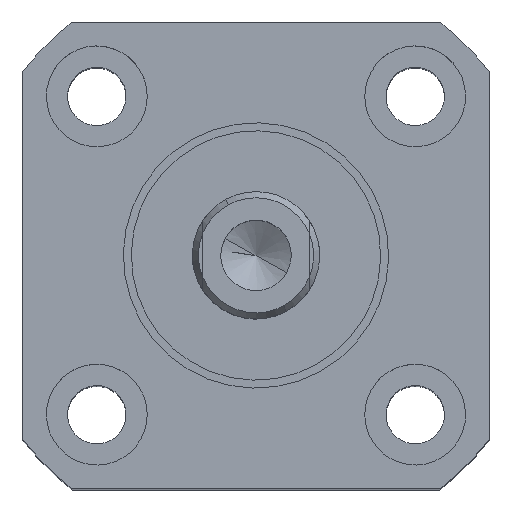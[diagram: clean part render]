
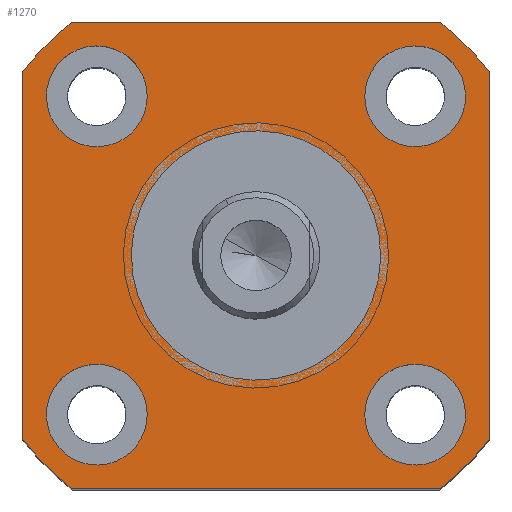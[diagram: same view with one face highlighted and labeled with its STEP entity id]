
A CAD part, top view. The second image highlights one B-rep face of the part: STEP entity #1270.
In plain terms, the highlighted planar face has unit normal (0, 0, 1).
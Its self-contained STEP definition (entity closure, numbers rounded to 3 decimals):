
#240=CARTESIAN_POINT('Vertex',(22.,-17.321,58.)) ;
#243=CARTESIAN_POINT('Axis2P3D Location',(0.,0.,58.)) ;
#247=CARTESIAN_POINT('Vertex',(17.321,-22.,58.)) ;
#324=CARTESIAN_POINT('Line Origine',(0.,-22.,58.)) ;
#328=CARTESIAN_POINT('Vertex',(-17.321,-22.,58.)) ;
#348=CARTESIAN_POINT('Line Origine',(0.,22.,58.)) ;
#352=CARTESIAN_POINT('Vertex',(17.321,22.,58.)) ;
#354=CARTESIAN_POINT('Vertex',(-17.321,22.,58.)) ;
#849=CARTESIAN_POINT('Axis2P3D Location',(15.,15.,58.)) ;
#853=CARTESIAN_POINT('Vertex',(12.723,10.831,58.)) ;
#855=CARTESIAN_POINT('Vertex',(17.277,19.169,58.)) ;
#884=CARTESIAN_POINT('Axis2P3D Location',(15.,15.,58.)) ;
#906=CARTESIAN_POINT('Axis2P3D Location',(15.,-15.,58.)) ;
#910=CARTESIAN_POINT('Vertex',(10.831,-12.723,58.)) ;
#912=CARTESIAN_POINT('Vertex',(19.169,-17.277,58.)) ;
#941=CARTESIAN_POINT('Axis2P3D Location',(15.,-15.,58.)) ;
#963=CARTESIAN_POINT('Axis2P3D Location',(-15.,-15.,58.)) ;
#967=CARTESIAN_POINT('Vertex',(-12.723,-10.831,58.)) ;
#969=CARTESIAN_POINT('Vertex',(-17.277,-19.169,58.)) ;
#998=CARTESIAN_POINT('Axis2P3D Location',(-15.,-15.,58.)) ;
#1024=CARTESIAN_POINT('Vertex',(-5.633,10.312,58.)) ;
#1031=CARTESIAN_POINT('Vertex',(5.633,-10.312,58.)) ;
#1034=CARTESIAN_POINT('Axis2P3D Location',(0.,0.,58.)) ;
#1046=CARTESIAN_POINT('Axis2P3D Location',(0.,0.,58.)) ;
#1063=CARTESIAN_POINT('Axis2P3D Location',(-15.,15.,58.)) ;
#1067=CARTESIAN_POINT('Vertex',(-10.831,12.723,58.)) ;
#1069=CARTESIAN_POINT('Vertex',(-19.169,17.277,58.)) ;
#1098=CARTESIAN_POINT('Axis2P3D Location',(-15.,15.,58.)) ;
#1160=CARTESIAN_POINT('Vertex',(-22.,17.321,58.)) ;
#1163=CARTESIAN_POINT('Axis2P3D Location',(0.,0.,58.)) ;
#1179=CARTESIAN_POINT('Vertex',(-22.,-17.321,58.)) ;
#1182=CARTESIAN_POINT('Axis2P3D Location',(0.,0.,58.)) ;
#1199=CARTESIAN_POINT('Line Origine',(-22.,0.,58.)) ;
#1215=CARTESIAN_POINT('Vertex',(22.,17.321,58.)) ;
#1218=CARTESIAN_POINT('Axis2P3D Location',(0.,0.,58.)) ;
#1230=CARTESIAN_POINT('Axis2P3D Location',(0.,28.,58.)) ;
#1235=CARTESIAN_POINT('Line Origine',(22.,0.,58.)) ;
#244=DIRECTION('Axis2P3D Direction',(0.,0.,1.)) ;
#325=DIRECTION('Vector Direction',(-1.,0.,0.)) ;
#349=DIRECTION('Vector Direction',(1.,0.,0.)) ;
#850=DIRECTION('Axis2P3D Direction',(-0.,0.,-1.)) ;
#885=DIRECTION('Axis2P3D Direction',(-0.,0.,-1.)) ;
#907=DIRECTION('Axis2P3D Direction',(0.,0.,-1.)) ;
#942=DIRECTION('Axis2P3D Direction',(0.,0.,-1.)) ;
#964=DIRECTION('Axis2P3D Direction',(0.,0.,-1.)) ;
#999=DIRECTION('Axis2P3D Direction',(0.,0.,-1.)) ;
#1035=DIRECTION('Axis2P3D Direction',(0.,0.,1.)) ;
#1047=DIRECTION('Axis2P3D Direction',(0.,0.,1.)) ;
#1064=DIRECTION('Axis2P3D Direction',(0.,-0.,-1.)) ;
#1099=DIRECTION('Axis2P3D Direction',(0.,-0.,-1.)) ;
#1164=DIRECTION('Axis2P3D Direction',(0.,0.,1.)) ;
#1183=DIRECTION('Axis2P3D Direction',(0.,0.,1.)) ;
#1200=DIRECTION('Vector Direction',(0.,-1.,0.)) ;
#1219=DIRECTION('Axis2P3D Direction',(0.,0.,1.)) ;
#1231=DIRECTION('Axis2P3D Direction',(0.,0.,1.)) ;
#1232=DIRECTION('Axis2P3D XDirection',(1.,0.,0.)) ;
#1236=DIRECTION('Vector Direction',(0.,1.,0.)) ;
#245=AXIS2_PLACEMENT_3D('Circle Axis2P3D',#243,#244,$) ;
#851=AXIS2_PLACEMENT_3D('Circle Axis2P3D',#849,#850,$) ;
#886=AXIS2_PLACEMENT_3D('Circle Axis2P3D',#884,#885,$) ;
#908=AXIS2_PLACEMENT_3D('Circle Axis2P3D',#906,#907,$) ;
#943=AXIS2_PLACEMENT_3D('Circle Axis2P3D',#941,#942,$) ;
#965=AXIS2_PLACEMENT_3D('Circle Axis2P3D',#963,#964,$) ;
#1000=AXIS2_PLACEMENT_3D('Circle Axis2P3D',#998,#999,$) ;
#1036=AXIS2_PLACEMENT_3D('Circle Axis2P3D',#1034,#1035,$) ;
#1048=AXIS2_PLACEMENT_3D('Circle Axis2P3D',#1046,#1047,$) ;
#1065=AXIS2_PLACEMENT_3D('Circle Axis2P3D',#1063,#1064,$) ;
#1100=AXIS2_PLACEMENT_3D('Circle Axis2P3D',#1098,#1099,$) ;
#1165=AXIS2_PLACEMENT_3D('Circle Axis2P3D',#1163,#1164,$) ;
#1184=AXIS2_PLACEMENT_3D('Circle Axis2P3D',#1182,#1183,$) ;
#1220=AXIS2_PLACEMENT_3D('Circle Axis2P3D',#1218,#1219,$) ;
#1233=AXIS2_PLACEMENT_3D('Plane Axis2P3D',#1230,#1231,#1232) ;
#1241=ORIENTED_EDGE('',*,*,#1239,.T.) ;
#1242=ORIENTED_EDGE('',*,*,#1222,.T.) ;
#1243=ORIENTED_EDGE('',*,*,#356,.T.) ;
#1244=ORIENTED_EDGE('',*,*,#1167,.T.) ;
#1245=ORIENTED_EDGE('',*,*,#1203,.T.) ;
#1246=ORIENTED_EDGE('',*,*,#1186,.T.) ;
#1247=ORIENTED_EDGE('',*,*,#330,.T.) ;
#1248=ORIENTED_EDGE('',*,*,#249,.T.) ;
#1251=ORIENTED_EDGE('',*,*,#1102,.F.) ;
#1252=ORIENTED_EDGE('',*,*,#1071,.F.) ;
#1255=ORIENTED_EDGE('',*,*,#1050,.F.) ;
#1256=ORIENTED_EDGE('',*,*,#1038,.F.) ;
#1259=ORIENTED_EDGE('',*,*,#1002,.F.) ;
#1260=ORIENTED_EDGE('',*,*,#971,.F.) ;
#1263=ORIENTED_EDGE('',*,*,#945,.F.) ;
#1264=ORIENTED_EDGE('',*,*,#914,.F.) ;
#1267=ORIENTED_EDGE('',*,*,#888,.F.) ;
#1268=ORIENTED_EDGE('',*,*,#857,.F.) ;
#1253=FACE_BOUND('',#1250,.T.) ;
#1257=FACE_BOUND('',#1254,.T.) ;
#1261=FACE_BOUND('',#1258,.T.) ;
#1265=FACE_BOUND('',#1262,.T.) ;
#1269=FACE_BOUND('',#1266,.T.) ;
#326=VECTOR('Line Direction',#325,1.) ;
#350=VECTOR('Line Direction',#349,1.) ;
#1201=VECTOR('Line Direction',#1200,1.) ;
#1237=VECTOR('Line Direction',#1236,1.) ;
#1270=ADVANCED_FACE('PartBody',(#1249,#1253,#1257,#1261,#1265,#1269),#1234,.T.) ;
#246=CIRCLE('generated circle',#245,28.) ;
#852=CIRCLE('generated circle',#851,4.75) ;
#887=CIRCLE('generated circle',#886,4.75) ;
#909=CIRCLE('generated circle',#908,4.75) ;
#944=CIRCLE('generated circle',#943,4.75) ;
#966=CIRCLE('generated circle',#965,4.75) ;
#1001=CIRCLE('generated circle',#1000,4.75) ;
#1037=CIRCLE('generated circle',#1036,11.75) ;
#1049=CIRCLE('generated circle',#1048,11.75) ;
#1066=CIRCLE('generated circle',#1065,4.75) ;
#1101=CIRCLE('generated circle',#1100,4.75) ;
#1166=CIRCLE('generated circle',#1165,28.) ;
#1185=CIRCLE('generated circle',#1184,28.) ;
#1221=CIRCLE('generated circle',#1220,28.) ;
#249=EDGE_CURVE('',#248,#241,#246,.T.) ;
#330=EDGE_CURVE('',#329,#248,#327,.F.) ;
#356=EDGE_CURVE('',#353,#355,#351,.F.) ;
#857=EDGE_CURVE('',#854,#856,#852,.F.) ;
#888=EDGE_CURVE('',#856,#854,#887,.F.) ;
#914=EDGE_CURVE('',#911,#913,#909,.F.) ;
#945=EDGE_CURVE('',#913,#911,#944,.F.) ;
#971=EDGE_CURVE('',#968,#970,#966,.F.) ;
#1002=EDGE_CURVE('',#970,#968,#1001,.F.) ;
#1038=EDGE_CURVE('',#1032,#1025,#1037,.T.) ;
#1050=EDGE_CURVE('',#1025,#1032,#1049,.T.) ;
#1071=EDGE_CURVE('',#1068,#1070,#1066,.F.) ;
#1102=EDGE_CURVE('',#1070,#1068,#1101,.F.) ;
#1167=EDGE_CURVE('',#355,#1161,#1166,.T.) ;
#1186=EDGE_CURVE('',#1180,#329,#1185,.T.) ;
#1203=EDGE_CURVE('',#1161,#1180,#1202,.T.) ;
#1222=EDGE_CURVE('',#1216,#353,#1221,.T.) ;
#1239=EDGE_CURVE('',#241,#1216,#1238,.T.) ;
#1240=EDGE_LOOP('',(#1241,#1242,#1243,#1244,#1245,#1246,#1247,#1248)) ;
#1250=EDGE_LOOP('',(#1251,#1252)) ;
#1254=EDGE_LOOP('',(#1255,#1256)) ;
#1258=EDGE_LOOP('',(#1259,#1260)) ;
#1262=EDGE_LOOP('',(#1263,#1264)) ;
#1266=EDGE_LOOP('',(#1267,#1268)) ;
#1249=FACE_OUTER_BOUND('',#1240,.T.) ;
#327=LINE('Line',#324,#326) ;
#351=LINE('Line',#348,#350) ;
#1202=LINE('Line',#1199,#1201) ;
#1238=LINE('Line',#1235,#1237) ;
#1234=PLANE('Plane',#1233) ;
#241=VERTEX_POINT('',#240) ;
#248=VERTEX_POINT('',#247) ;
#329=VERTEX_POINT('',#328) ;
#353=VERTEX_POINT('',#352) ;
#355=VERTEX_POINT('',#354) ;
#854=VERTEX_POINT('',#853) ;
#856=VERTEX_POINT('',#855) ;
#911=VERTEX_POINT('',#910) ;
#913=VERTEX_POINT('',#912) ;
#968=VERTEX_POINT('',#967) ;
#970=VERTEX_POINT('',#969) ;
#1025=VERTEX_POINT('',#1024) ;
#1032=VERTEX_POINT('',#1031) ;
#1068=VERTEX_POINT('',#1067) ;
#1070=VERTEX_POINT('',#1069) ;
#1161=VERTEX_POINT('',#1160) ;
#1180=VERTEX_POINT('',#1179) ;
#1216=VERTEX_POINT('',#1215) ;
